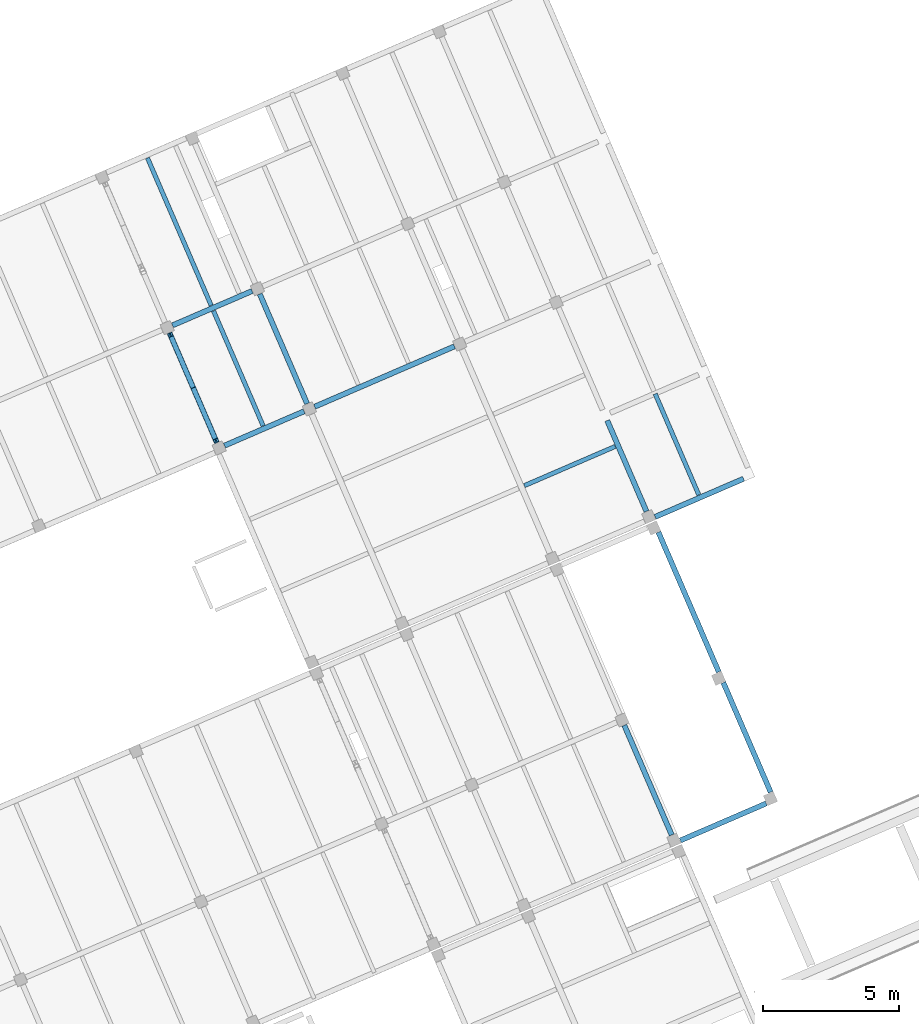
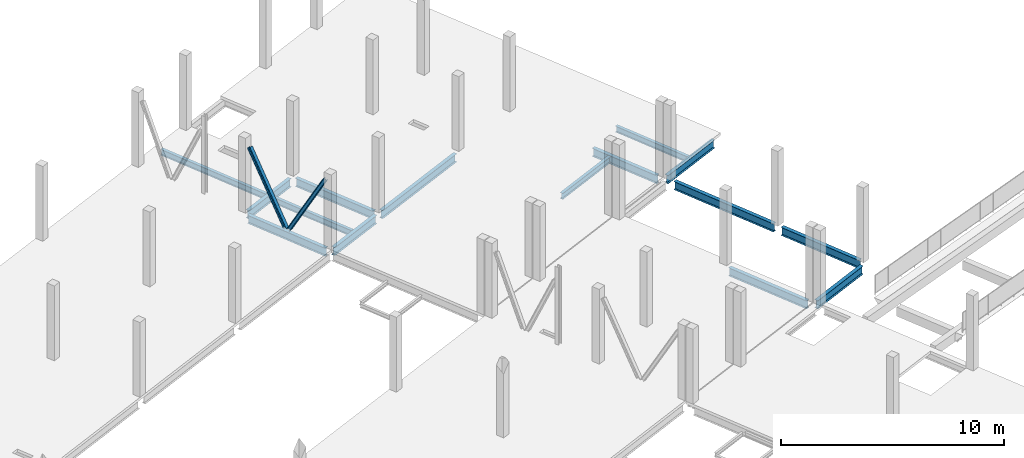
# One storey, part 19 of 24: 15 beams, 2 members.
"""IFC4 building model written with IfcOpenShell, lengths in metres."""

from ifc_helpers import new_model, entity, si_unit, converted_unit, derived_unit, direction, frame, origin, place, context, subcontext, project, spatial, line, arc, indexed_curve, outline, extrude, source, transform, mapped, material, type_object, type_shapes, element, save


model = new_model("IFC4")

# Units and contexts
model_context = context("Model", 3, precision=1e-05, world=origin(), true_north=direction((6.12323399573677e-17, 1.0)))
body_context = subcontext(model_context, "Body", "Model", "MODEL_VIEW")
ifc_project = project(units=[si_unit("LENGTHUNIT", "METRE"), si_unit("AREAUNIT", "SQUARE_METRE"), si_unit("VOLUMEUNIT", "CUBIC_METRE"), converted_unit("PLANEANGLEUNIT", "DEGREE", entity("IfcPlaneAngleMeasure", 0.0174532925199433), si_unit("PLANEANGLEUNIT", "RADIAN"), dimensions=[0, 0, 0, 0, 0, 0, 0]), si_unit("MASSUNIT", "GRAM", prefix="KILO"), derived_unit("MOMENTOFINERTIAUNIT", [(si_unit("LENGTHUNIT", "METRE"), 4)]), derived_unit("LINEARFORCEUNIT", [(si_unit("MASSUNIT", "GRAM", prefix="KILO"), 1), (si_unit("TIMEUNIT", "SECOND"), -2)]), derived_unit("WARPINGCONSTANTUNIT", [(si_unit("LENGTHUNIT", "METRE"), 6)]), derived_unit("THERMALTRANSMITTANCEUNIT", [(si_unit("MASSUNIT", "GRAM", prefix="KILO"), 1), (si_unit("THERMODYNAMICTEMPERATUREUNIT", "KELVIN"), -1), (si_unit("TIMEUNIT", "SECOND"), -3)]), derived_unit("USERDEFINED", [(si_unit("MASSUNIT", "GRAM", prefix="KILO"), 1), (si_unit("TIMEUNIT", "SECOND"), -2), (si_unit("THERMODYNAMICTEMPERATUREUNIT", "KELVIN"), -1)]), derived_unit("THERMALRESISTANCEUNIT", [(si_unit("MASSUNIT", "GRAM", prefix="KILO"), -1), (si_unit("TIMEUNIT", "SECOND"), 3), (si_unit("THERMODYNAMICTEMPERATUREUNIT", "KELVIN"), 1)])], contexts=[model_context])

# Site, building, storey
site_placement = place(None, origin())
site = spatial("IfcSite", under=ifc_project, at=site_placement, Name="Default", CompositionType="ELEMENT")
building_placement = place(site_placement, frame((12.6613425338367, -82.5732315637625, 317.15), z_axis=(0.0, 0.0, 1.0), x_axis=(-0.396377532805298, 0.918087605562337, 0.0)))
building = spatial("IfcBuilding", under=site, at=building_placement, Name="CESFAM Coyhaique", CompositionType="ELEMENT")
storey_placement = place(building_placement, frame((0.0, 0.0, 4.20000000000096)))
storey = spatial("IfcBuildingStorey", under=building, at=storey_placement, Name="Nivel 2", CompositionType="ELEMENT", Elevation=4.20000000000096)

# Beams
ifc_material = material(Name="Steel, 45-345", Category="Metal")
beam_type_1 = type_object("IfcBeamType", Name="M_W Shapes:W450X190mm", PredefinedType="BEAM", material=ifc_material)
shared_shape_1 = source(origin(), body_context, "Body", "SweptSolid", [
    extrude(outline(indexed_curve([(-0.225, -0.0950000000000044), (-0.215350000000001, -0.0950000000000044), (-0.21535, -0.0105700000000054), (-0.213109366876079, -0.00516063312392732), (-0.2077, -0.00292000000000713), (0.207699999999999, -0.00292000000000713), (0.213109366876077, -0.00516063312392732), (0.215349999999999, -0.0105700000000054), (0.215349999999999, -0.0950000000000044), (0.225, -0.0950000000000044), (0.225, 0.0949999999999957), (0.215349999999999, 0.0949999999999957), (0.215349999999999, 0.0105699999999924), (0.213109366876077, 0.00516063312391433), (0.207699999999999, 0.00291999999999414), (-0.2077, 0.00291999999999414), (-0.213109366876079, 0.00516063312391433), (-0.215350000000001, 0.0105699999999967), (-0.215350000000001, 0.0949999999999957), (-0.225, 0.0949999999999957)], segments=[line(1, 2, 3), arc(3, 4, 5), line(5, 6), arc(6, 7, 8), line(8, 9, 10, 11, 12, 13), arc(13, 14, 15), line(15, 16), arc(16, 17, 18), line(18, 19, 20, 1)], self_intersect=False)), frame((24.1815534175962, -21.197149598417, 3.82500000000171), z_axis=(1.0, 0.0, 0.0), x_axis=(0.0, 0.0, -1.0)), (0.0, 0.0, 1.0), 4.3746),
])
type_shapes(beam_type_1, [shared_shape_1])
beam_1_placement = place(storey_placement, frame((0.0, 0.0, -4.20000000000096)))
element("IfcBeam", 1, at=beam_1_placement, inside=storey, type_object=beam_type_1, Name="M_W Shapes:W450X190mm", ObjectType="M_W Shapes:W450X190mm", PredefinedType="BEAM", context=body_context, shape_type="MappedRepresentation", body=[
    mapped(shared_shape_1, transform((0.0, 0.0, 0.0), scale=1.0)),
])
beam_type_2 = type_object("IfcBeamType", Name="M_W Shapes:W450X190mm", PredefinedType="BEAM", material=ifc_material)
shared_shape_2 = source(origin(), body_context, "Body", "SweptSolid", [
    extrude(outline(indexed_curve([(-0.0950000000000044, -0.225000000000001), (0.0949999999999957, -0.225000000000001), (0.0950000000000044, -0.21535), (0.0105699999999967, -0.21535), (0.00516063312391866, -0.213109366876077), (0.0029200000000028, -0.2077), (0.00291999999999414, 0.207699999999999), (0.00516063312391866, 0.213109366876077), (0.0105699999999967, 0.21535), (0.0949999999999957, 0.21535), (0.0949999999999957, 0.224999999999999), (-0.0950000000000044, 0.224999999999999), (-0.0950000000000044, 0.21535), (-0.0105700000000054, 0.215349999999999), (-0.00516063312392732, 0.213109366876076), (-0.0029200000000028, 0.207699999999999), (-0.0029200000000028, -0.2077), (-0.00516063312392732, -0.213109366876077), (-0.0105699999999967, -0.21535), (-0.0950000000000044, -0.21535)], segments=[line(1, 2, 3, 4), arc(4, 5, 6), line(6, 7), arc(7, 8, 9), line(9, 10, 11, 12, 13, 14), arc(14, 15, 16), line(16, 17), arc(17, 18, 19), line(19, 20, 1)], self_intersect=False)), frame((43.7688534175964, -14.9844495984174, 3.82500000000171), z_axis=(0.0, 1.0, 0.0), x_axis=(-1.0, 0.0, 0.0)), (0.0, 0.0, 1.0), 3.1746),
])
type_shapes(beam_type_2, [shared_shape_2])
beam_2_placement = place(storey_placement, frame((0.0, 0.0, -4.20000000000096)))
element("IfcBeam", 2, at=beam_2_placement, inside=storey, type_object=beam_type_2, Name="M_W Shapes:W450X190mm", ObjectType="M_W Shapes:W450X190mm", PredefinedType="BEAM", context=body_context, shape_type="MappedRepresentation", body=[
    mapped(shared_shape_2, transform((0.0, 0.0, 0.0), scale=1.0)),
])
beam_type_3 = type_object("IfcBeamType", Name="M_W Shapes:W450X190mm", PredefinedType="BEAM", material=ifc_material)
shared_shape_3 = source(origin(), body_context, "Body", "SweptSolid", [
    extrude(outline(indexed_curve([(-0.0950000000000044, -0.225000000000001), (0.0949999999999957, -0.225000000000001), (0.0950000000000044, -0.21535), (0.0105699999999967, -0.21535), (0.00516063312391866, -0.213109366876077), (0.0029200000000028, -0.2077), (0.00291999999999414, 0.207699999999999), (0.00516063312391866, 0.213109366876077), (0.0105699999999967, 0.21535), (0.0949999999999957, 0.21535), (0.0949999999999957, 0.224999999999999), (-0.0950000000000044, 0.224999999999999), (-0.0950000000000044, 0.21535), (-0.0105700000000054, 0.215349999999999), (-0.00516063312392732, 0.213109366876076), (-0.0029200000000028, 0.207699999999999), (-0.0029200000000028, -0.2077), (-0.00516063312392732, -0.213109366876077), (-0.0105699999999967, -0.21535), (-0.0950000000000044, -0.21535)], segments=[line(1, 2, 3, 4), arc(4, 5, 6), line(6, 7), arc(7, 8, 9), line(9, 10, 11, 12, 13, 14), arc(14, 15, 16), line(16, 17), arc(17, 18, 19), line(19, 20, 1)], self_intersect=False)), frame((48.5688534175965, -14.9844495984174, 3.82500000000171), z_axis=(0.0, 1.0, 0.0), x_axis=(-1.0, 0.0, 0.0)), (0.0, 0.0, 1.0), 3.1746),
])
type_shapes(beam_type_3, [shared_shape_3])
beam_3_placement = place(storey_placement, frame((0.0, 0.0, -4.20000000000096)))
element("IfcBeam", 3, at=beam_3_placement, inside=storey, type_object=beam_type_3, Name="M_W Shapes:W450X190mm", ObjectType="M_W Shapes:W450X190mm", PredefinedType="BEAM", context=body_context, shape_type="MappedRepresentation", body=[
    mapped(shared_shape_3, transform((0.0, 0.0, 0.0), scale=1.0)),
])
beam_type_4 = type_object("IfcBeamType", Name="M_W Shapes:W450X190mm", PredefinedType="BEAM", material=ifc_material)
shared_shape_4 = source(origin(), body_context, "Body", "SweptSolid", [
    extrude(outline(indexed_curve([(-0.225, -0.0950000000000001), (-0.215350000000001, -0.0949999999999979), (-0.21535, -0.0105699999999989), (-0.213109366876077, -0.00516063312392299), (-0.2077, -0.00291999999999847), (0.207699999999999, -0.00291999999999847), (0.213109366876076, -0.00516063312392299), (0.215349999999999, -0.0105699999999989), (0.215349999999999, -0.0950000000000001), (0.225, -0.0950000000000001), (0.225, 0.0950000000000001), (0.215349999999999, 0.0950000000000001), (0.215349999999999, 0.0105700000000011), (0.213109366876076, 0.00516063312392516), (0.207699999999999, 0.00292000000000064), (-0.2077, 0.00292000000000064), (-0.213109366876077, 0.00516063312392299), (-0.215350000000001, 0.0105700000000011), (-0.215350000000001, 0.0950000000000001), (-0.225, 0.0950000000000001)], segments=[line(1, 2, 3), arc(3, 4, 5), line(5, 6), arc(6, 7, 8), line(8, 9, 10, 11, 12, 13), arc(13, 14, 15), line(15, 16), arc(16, 17, 18), line(18, 19, 20, 1)], self_intersect=False)), frame((43.9815534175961, -11.5971495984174, 3.82500000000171), z_axis=(1.0, 0.0, 0.0), x_axis=(0.0, 0.0, -1.0)), (0.0, 0.0, 1.0), 4.3746),
])
type_shapes(beam_type_4, [shared_shape_4])
beam_4_placement = place(storey_placement, frame((0.0, 0.0, -4.20000000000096)))
element("IfcBeam", 4, at=beam_4_placement, inside=storey, type_object=beam_type_4, Name="M_W Shapes:W450X190mm", ObjectType="M_W Shapes:W450X190mm", PredefinedType="BEAM", context=body_context, shape_type="MappedRepresentation", body=[
    mapped(shared_shape_4, transform((0.0, 0.0, 0.0), scale=1.0)),
])
beam_type_5 = type_object("IfcBeamType", Name="M_W Shapes:W450X190mm", PredefinedType="BEAM", material=ifc_material)
shared_shape_5 = source(origin(), body_context, "Body", "SweptSolid", [
    extrude(outline(indexed_curve([(-0.0949999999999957, -0.225000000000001), (0.0950000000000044, -0.225000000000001), (0.0950000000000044, -0.21535), (0.0105700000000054, -0.21535), (0.00516063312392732, -0.213109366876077), (0.00292000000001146, -0.2077), (0.0029200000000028, 0.207699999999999), (0.00516063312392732, 0.213109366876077), (0.0105700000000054, 0.21535), (0.0950000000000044, 0.21535), (0.0950000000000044, 0.224999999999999), (-0.0949999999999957, 0.224999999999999), (-0.0949999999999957, 0.21535), (-0.0105699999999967, 0.215349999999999), (-0.00516063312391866, 0.213109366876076), (-0.00291999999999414, 0.207699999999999), (-0.00291999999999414, -0.2077), (-0.00516063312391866, -0.213109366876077), (-0.0105699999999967, -0.21535), (-0.0949999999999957, -0.21535)], segments=[line(1, 2, 3, 4), arc(4, 5, 6), line(6, 7), arc(7, 8, 9), line(9, 10, 11, 12, 13, 14), arc(14, 15, 16), line(16, 17), arc(17, 18, 19), line(19, 20, 1)], self_intersect=False)), frame((43.7688534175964, -20.9844495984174, 3.82500000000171), z_axis=(0.0, 1.0, 0.0), x_axis=(-1.0, 0.0, 0.0)), (0.0, 0.0, 1.0), 5.5746),
])
type_shapes(beam_type_5, [shared_shape_5])
beam_5_placement = place(storey_placement, frame((0.0, 0.0, -4.20000000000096)))
element("IfcBeam", 5, at=beam_5_placement, inside=storey, type_object=beam_type_5, Name="M_W Shapes:W450X190mm", ObjectType="M_W Shapes:W450X190mm", PredefinedType="BEAM", context=body_context, shape_type="MappedRepresentation", body=[
    mapped(shared_shape_5, transform((0.0, 0.0, 0.0), scale=1.0)),
])
beam_type_6 = type_object("IfcBeamType", Name="M_W Shapes:W450X190mm", PredefinedType="BEAM", material=ifc_material)
shared_shape_6 = source(origin(), body_context, "Body", "SweptSolid", [
    extrude(outline(indexed_curve([(-0.225, -0.0949999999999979), (-0.215350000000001, -0.0949999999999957), (-0.21535, -0.0105699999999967), (-0.213109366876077, -0.00516063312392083), (-0.2077, -0.0029199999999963), (0.207699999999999, -0.0029199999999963), (0.213109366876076, -0.00516063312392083), (0.215349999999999, -0.0105699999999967), (0.215349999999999, -0.0949999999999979), (0.225, -0.0949999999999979), (0.225, 0.0950000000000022), (0.215349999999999, 0.0950000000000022), (0.215349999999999, 0.0105700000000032), (0.213109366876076, 0.00516063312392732), (0.207699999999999, 0.0029200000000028), (-0.2077, 0.0029200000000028), (-0.213109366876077, 0.00516063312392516), (-0.215350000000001, 0.0105700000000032), (-0.215350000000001, 0.0950000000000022), (-0.225, 0.0950000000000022)], segments=[line(1, 2, 3), arc(3, 4, 5), line(5, 6), arc(6, 7, 8), line(8, 9, 10, 11, 12, 13), arc(13, 14, 15), line(15, 16), arc(16, 17, 18), line(18, 19, 20, 1)], self_intersect=False)), frame((43.9815534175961, -15.1971495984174, 3.82500000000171), z_axis=(1.0, 0.0, 0.0), x_axis=(0.0, 0.0, -1.0)), (0.0, 0.0, 1.0), 4.3746),
])
type_shapes(beam_type_6, [shared_shape_6])
beam_6_placement = place(storey_placement, frame((0.0, 0.0, -4.20000000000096)))
element("IfcBeam", 6, at=beam_6_placement, inside=storey, type_object=beam_type_6, Name="M_W Shapes:W450X190mm", ObjectType="M_W Shapes:W450X190mm", PredefinedType="BEAM", context=body_context, shape_type="MappedRepresentation", body=[
    mapped(shared_shape_6, transform((0.0, 0.0, 0.0), scale=1.0)),
])
beam_type_7 = type_object("IfcBeamType", Name="M_W Shapes:W450X190mm", PredefinedType="BEAM", material=ifc_material)
shared_shape_7 = source(origin(), body_context, "Body", "SweptSolid", [
    extrude(outline(indexed_curve([(-0.0950000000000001, -0.225000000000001), (0.0950000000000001, -0.225000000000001), (0.0950000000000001, -0.21535), (0.0105699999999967, -0.21535), (0.00516063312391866, -0.213109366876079), (0.00291999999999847, -0.2077), (0.00291999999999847, 0.207699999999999), (0.00516063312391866, 0.213109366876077), (0.0105700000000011, 0.21535), (0.0950000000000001, 0.21535), (0.0950000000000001, 0.224999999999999), (-0.0950000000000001, 0.224999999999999), (-0.0950000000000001, 0.21535), (-0.0105700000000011, 0.215349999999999), (-0.00516063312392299, 0.213109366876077), (-0.0029200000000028, 0.207699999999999), (-0.0029200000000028, -0.2077), (-0.00516063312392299, -0.213109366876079), (-0.0105700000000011, -0.21535), (-0.0950000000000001, -0.21535)], segments=[line(1, 2, 3, 4), arc(4, 5, 6), line(6, 7), arc(7, 8, 9), line(9, 10, 11, 12, 13, 14), arc(14, 15, 16), line(16, 17), arc(17, 18, 19), line(19, 20, 1)], self_intersect=False)), frame((23.8688534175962, -24.8344495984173, 3.82500000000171), z_axis=(0.0, 1.0, 0.0), x_axis=(-1.0, 0.0, 0.0)), (0.0, 0.0, 1.0), 3.4246),
])
type_shapes(beam_type_7, [shared_shape_7])
beam_7_placement = place(storey_placement, frame((0.0, 0.0, -4.20000000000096)))
element("IfcBeam", 7, at=beam_7_placement, inside=storey, type_object=beam_type_7, Name="M_W Shapes:W450X190mm", ObjectType="M_W Shapes:W450X190mm", PredefinedType="BEAM", context=body_context, shape_type="MappedRepresentation", body=[
    mapped(shared_shape_7, transform((0.0, 0.0, 0.0), scale=1.0)),
])
beam_type_8 = type_object("IfcBeamType", Name="M_W Shapes:W450X190mm", PredefinedType="BEAM", material=ifc_material)
shared_shape_8 = source(origin(), body_context, "Body", "SweptSolid", [
    extrude(outline(indexed_curve([(-0.225, -0.0949999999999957), (-0.215350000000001, -0.0949999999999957), (-0.21535, -0.0105699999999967), (-0.213109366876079, -0.00516063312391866), (-0.2077, -0.00291999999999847), (0.207699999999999, -0.00291999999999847), (0.213109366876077, -0.00516063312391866), (0.215349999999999, -0.0105699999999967), (0.215349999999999, -0.0949999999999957), (0.225, -0.0949999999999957), (0.225, 0.0950000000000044), (0.215349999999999, 0.0950000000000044), (0.215349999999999, 0.0105700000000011), (0.213109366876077, 0.00516063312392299), (0.207699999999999, 0.0029200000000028), (-0.2077, 0.0029200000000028), (-0.213109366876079, 0.00516063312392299), (-0.215350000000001, 0.0105700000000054), (-0.215350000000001, 0.0950000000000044), (-0.225, 0.0950000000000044)], segments=[line(1, 2, 3), arc(3, 4, 5), line(5, 6), arc(6, 7, 8), line(8, 9, 10, 11, 12, 13), arc(13, 14, 15), line(15, 16), arc(16, 17, 18), line(18, 19, 20, 1)], self_intersect=False)), frame((24.1815534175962, -25.1471495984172, 3.82500000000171), z_axis=(1.0, 0.0, 0.0), x_axis=(0.0, 0.0, -1.0)), (0.0, 0.0, 1.0), 4.3746),
])
type_shapes(beam_type_8, [shared_shape_8])
beam_8_placement = place(storey_placement, frame((0.0, 0.0, -4.20000000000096)))
element("IfcBeam", 8, at=beam_8_placement, inside=storey, type_object=beam_type_8, Name="M_W Shapes:W450X190mm", ObjectType="M_W Shapes:W450X190mm", PredefinedType="BEAM", context=body_context, shape_type="MappedRepresentation", body=[
    mapped(shared_shape_8, transform((0.0, 0.0, 0.0), scale=1.0)),
])
beam_type_9 = type_object("IfcBeamType", Name="M_W Shapes:W450X190mm", PredefinedType="BEAM", material=ifc_material)
shared_shape_9 = source(origin(), body_context, "Body", "SweptSolid", [
    extrude(outline(indexed_curve([(-0.225, -0.0949999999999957), (-0.215350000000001, -0.0949999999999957), (-0.21535, -0.0105699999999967), (-0.213109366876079, -0.00516063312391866), (-0.2077, -0.00291999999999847), (0.207699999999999, -0.00291999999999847), (0.213109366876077, -0.00516063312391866), (0.215349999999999, -0.0105699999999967), (0.215349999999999, -0.0949999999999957), (0.225, -0.0949999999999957), (0.225, 0.0950000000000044), (0.215349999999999, 0.0950000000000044), (0.215349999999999, 0.0105700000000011), (0.213109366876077, 0.00516063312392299), (0.207699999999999, 0.0029200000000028), (-0.2077, 0.0029200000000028), (-0.213109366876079, 0.00516063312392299), (-0.215350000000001, 0.0105700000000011), (-0.215350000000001, 0.0950000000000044), (-0.225, 0.0950000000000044)], segments=[line(1, 2, 3), arc(3, 4, 5), line(5, 6), arc(6, 7, 8), line(8, 9, 10, 11, 12, 13), arc(13, 14, 15), line(15, 16), arc(16, 17, 18), line(18, 19, 20, 1)], self_intersect=False)), frame((28.9815534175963, -25.1471495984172, 3.82500000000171), z_axis=(1.0, 0.0, 0.0), x_axis=(0.0, 0.0, -1.0)), (0.0, 0.0, 1.0), 5.5746),
])
type_shapes(beam_type_9, [shared_shape_9])
beam_9_placement = place(storey_placement, frame((0.0, 0.0, -4.20000000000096)))
element("IfcBeam", 9, at=beam_9_placement, inside=storey, type_object=beam_type_9, Name="M_W Shapes:W450X190mm", ObjectType="M_W Shapes:W450X190mm", PredefinedType="BEAM", context=body_context, shape_type="MappedRepresentation", body=[
    mapped(shared_shape_9, transform((0.0, 0.0, 0.0), scale=1.0)),
])
beam_type_10 = type_object("IfcBeamType", Name="M_W Shapes:W450X190mm", PredefinedType="BEAM", material=ifc_material)
shared_shape_10 = source(origin(), body_context, "Body", "SweptSolid", [
    extrude(outline(indexed_curve([(-0.225, -0.0950000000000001), (-0.215350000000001, -0.0950000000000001), (-0.21535, -0.0105700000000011), (-0.213109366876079, -0.00516063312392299), (-0.2077, -0.0029200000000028), (0.207699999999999, -0.0029200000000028), (0.213109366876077, -0.00516063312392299), (0.215349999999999, -0.0105700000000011), (0.215349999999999, -0.0950000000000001), (0.225, -0.0950000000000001), (0.225, 0.0950000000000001), (0.215349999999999, 0.0950000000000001), (0.215349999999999, 0.0105699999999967), (0.213109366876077, 0.00516063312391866), (0.207699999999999, 0.00291999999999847), (-0.2077, 0.00291999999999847), (-0.213109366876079, 0.00516063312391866), (-0.215350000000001, 0.0105700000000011), (-0.215350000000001, 0.0950000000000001), (-0.225, 0.0950000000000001)], segments=[line(1, 2, 3), arc(3, 4, 5), line(5, 6), arc(6, 7, 8), line(8, 9, 10, 11, 12, 13), arc(13, 14, 15), line(15, 16), arc(16, 17, 18), line(18, 19, 20, 1)], self_intersect=False)), frame((35.4315534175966, -25.0471495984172, 3.82500000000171), z_axis=(1.0, 0.0, 0.0), x_axis=(0.0, 0.0, -1.0)), (0.0, 0.0, 1.0), 3.6246),
])
type_shapes(beam_type_10, [shared_shape_10])
beam_10_placement = place(storey_placement, frame((0.0, 0.0, -4.20000000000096)))
element("IfcBeam", 10, at=beam_10_placement, inside=storey, type_object=beam_type_10, Name="M_W Shapes:W450X190mm", ObjectType="M_W Shapes:W450X190mm", PredefinedType="BEAM", context=body_context, shape_type="MappedRepresentation", body=[
    mapped(shared_shape_10, transform((0.0, 0.0, 0.0), scale=1.0)),
])
beam_type_11 = type_object("IfcBeamType", Name="M_W Shapes:W450X190mm", PredefinedType="BEAM", material=ifc_material)
shared_shape_11 = source(origin(), body_context, "Body", "SweptSolid", [
    extrude(outline(indexed_curve([(-0.0950000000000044, -0.225000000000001), (0.0949999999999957, -0.225000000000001), (0.0949999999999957, -0.21535), (0.0105699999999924, -0.21535), (0.00516063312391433, -0.213109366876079), (0.00291999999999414, -0.2077), (0.00291999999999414, 0.207699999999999), (0.00516063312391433, 0.213109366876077), (0.0105699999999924, 0.21535), (0.0949999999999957, 0.21535), (0.0949999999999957, 0.224999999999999), (-0.0950000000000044, 0.224999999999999), (-0.0950000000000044, 0.21535), (-0.0105700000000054, 0.215349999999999), (-0.00516063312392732, 0.213109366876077), (-0.00292000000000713, 0.207699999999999), (-0.00292000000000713, -0.2077), (-0.00516063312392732, -0.213109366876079), (-0.0105700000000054, -0.21535), (-0.0950000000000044, -0.21535)], segments=[line(1, 2, 3, 4), arc(4, 5, 6), line(6, 7), arc(7, 8, 9), line(9, 10, 11, 12, 13, 14), arc(14, 15, 16), line(16, 17), arc(17, 18, 19), line(19, 20, 1)], self_intersect=False)), frame((35.1188534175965, -28.7844495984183, 3.82500000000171), z_axis=(0.0, 1.0, 0.0), x_axis=(-1.0, 0.0, 0.0)), (0.0, 0.0, 1.0), 3.5246),
])
type_shapes(beam_type_11, [shared_shape_11])
beam_11_placement = place(storey_placement, frame((0.0, 0.0, -4.20000000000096)))
element("IfcBeam", 11, at=beam_11_placement, inside=storey, type_object=beam_type_11, Name="M_W Shapes:W450X190mm", ObjectType="M_W Shapes:W450X190mm", PredefinedType="BEAM", context=body_context, shape_type="MappedRepresentation", body=[
    mapped(shared_shape_11, transform((0.0, 0.0, 0.0), scale=1.0)),
])

# Members
member_type_1 = type_object("IfcMemberType", Name="M_Double C-Channel:doble T HEB 180", PredefinedType="BRACE", material=ifc_material)
shared_shape_12 = source(origin(), body_context, "Body", "SweptSolid", [
    extrude(outline(indexed_curve([(-0.045425, -0.0899999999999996), (0.0445749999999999, -0.0899999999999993), (0.0397422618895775, -0.0783327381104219), (0.0280749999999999, -0.0735000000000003), (-0.0272249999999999, -0.0647413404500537), (-0.0272249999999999, 0.0647413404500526), (0.0280750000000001, 0.0734999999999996), (0.0397422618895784, 0.078332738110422), (0.044575, 0.0900000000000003), (-0.045425, 0.0900000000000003)], segments=[line(1, 2), arc(2, 3, 4), line(4, 5, 6, 7), arc(7, 8, 9), line(9, 10, 1)], self_intersect=False)), frame((-2.4277149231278, -0.0454249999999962, 0.0), z_axis=(1.0, 0.0, 0.0), x_axis=(0.0, -1.0, 0.0)), (0.0, 0.0, 1.0), 4.1299440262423),
    extrude(outline(indexed_curve([(-0.0899999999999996, -0.045425), (0.0900000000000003, -0.045425), (0.0900000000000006, 0.044575), (0.0783327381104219, 0.0397422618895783), (0.0734999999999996, 0.028075), (0.0647413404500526, -0.0272249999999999), (-0.0647413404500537, -0.0272249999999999), (-0.0735000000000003, 0.0280749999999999), (-0.0783327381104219, 0.0397422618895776), (-0.0899999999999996, 0.0445749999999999)], segments=[line(1, 2, 3), arc(3, 4, 5), line(5, 6, 7, 8), arc(8, 9, 10), line(10, 1)], self_intersect=False)), frame((-2.4277149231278, 0.0454250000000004, 0.0), z_axis=(1.0, 0.0, 0.0), x_axis=(0.0, 0.0, -1.0)), (0.0, 0.0, 1.0), 4.1299440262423),
])
type_shapes(member_type_1, [shared_shape_12])
member_1_placement = place(storey_placement, frame((44.8904855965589, -11.5971495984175, 2.0807452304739), z_axis=(0.87075356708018, 0.0, 0.491719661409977), x_axis=(-0.491719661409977, 0.0, 0.87075356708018)))
element("IfcMember", 12, at=member_1_placement, inside=storey, type_object=member_type_1, Name="M_Double C-Channel:doble T HEB 180", ObjectType="M_Double C-Channel:doble T HEB 180", PredefinedType="BRACE", context=body_context, shape_type="MappedRepresentation", body=[
    mapped(shared_shape_12, transform((0.0, 0.0, 0.0), scale=1.0)),
])
member_type_2 = type_object("IfcMemberType", Name="M_Double C-Channel:doble T HEB 180", PredefinedType="BRACE", material=ifc_material)
shared_shape_13 = source(origin(), body_context, "Body", "SweptSolid", [
    extrude(outline(indexed_curve([(-0.0899999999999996, -0.045425), (0.0900000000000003, -0.045425), (0.0900000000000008, 0.044575), (0.078332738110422, 0.0397422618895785), (0.0734999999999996, 0.028075), (0.0647413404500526, -0.0272249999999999), (-0.0647413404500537, -0.0272249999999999), (-0.0735000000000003, 0.0280749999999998), (-0.0783327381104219, 0.0397422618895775), (-0.0899999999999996, 0.0445749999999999)], segments=[line(1, 2, 3), arc(3, 4, 5), line(5, 6, 7, 8), arc(8, 9, 10), line(10, 1)], self_intersect=False)), frame((-2.42771492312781, 0.0454249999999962, 0.0), z_axis=(1.0, 0.0, 0.0), x_axis=(0.0, 0.0, -1.0)), (0.0, 0.0, 1.0), 4.1299440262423),
    extrude(outline(indexed_curve([(-0.045425, -0.0899999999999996), (0.0445749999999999, -0.0899999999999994), (0.0397422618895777, -0.078332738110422), (0.0280749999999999, -0.0735000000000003), (-0.0272249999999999, -0.0647413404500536), (-0.0272249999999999, 0.0647413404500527), (0.0280749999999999, 0.0734999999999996), (0.0397422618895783, 0.0783327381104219), (0.044575, 0.0900000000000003), (-0.045425, 0.0900000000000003)], segments=[line(1, 2), arc(2, 3, 4), line(4, 5, 6, 7), arc(7, 8, 9), line(9, 10, 1)], self_intersect=False)), frame((-2.42771492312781, -0.0454250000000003, 0.0), z_axis=(1.0, 0.0, 0.0), x_axis=(0.0, -1.0, 0.0)), (0.0, 0.0, 1.0), 4.1299440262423),
])
type_shapes(member_type_2, [shared_shape_13])
member_2_placement = place(storey_placement, frame((47.4472212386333, -11.5971495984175, 2.0807452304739), z_axis=(-0.870753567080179, 0.0, 0.491719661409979), x_axis=(0.491719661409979, 0.0, 0.870753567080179)))
element("IfcMember", 13, at=member_2_placement, inside=storey, type_object=member_type_2, Name="M_Double C-Channel:doble T HEB 180", ObjectType="M_Double C-Channel:doble T HEB 180", PredefinedType="BRACE", context=body_context, shape_type="MappedRepresentation", body=[
    mapped(shared_shape_13, transform((0.0, 0.0, 0.0), scale=1.0)),
])

# Beams
beam_type_12 = type_object("IfcBeamType", Name="M_W Shapes:W330X160mm", PredefinedType="BEAM", material=ifc_material)
shared_shape_14 = source(origin(), body_context, "Body", "SweptSolid", [
    extrude(outline(indexed_curve([(-0.164999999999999, -0.0799999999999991), (-0.15535, -0.0799999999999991), (-0.155349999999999, -0.0105699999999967), (-0.153109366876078, -0.00516063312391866), (-0.1477, -0.00291999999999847), (0.1477, -0.00291999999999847), (0.153109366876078, -0.00516063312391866), (0.15535, -0.0105699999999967), (0.15535, -0.0799999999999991), (0.165, -0.0799999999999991), (0.165, 0.0800000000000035), (0.15535, 0.0800000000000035), (0.155349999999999, 0.0105700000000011), (0.153109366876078, 0.00516063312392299), (0.1477, 0.0029200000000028), (-0.1477, 0.0029200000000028), (-0.153109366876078, 0.00516063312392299), (-0.15535, 0.0105700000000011), (-0.15535, 0.0800000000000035), (-0.164999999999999, 0.0800000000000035)], segments=[line(1, 2, 3), arc(3, 4, 5), line(5, 6), arc(6, 7, 8), line(8, 9, 10, 11, 12, 13), arc(13, 14, 15), line(15, 16), arc(16, 17, 18), line(18, 19, 20, 1)], self_intersect=False)), frame((35.2265534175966, -27.0471495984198, 3.88500000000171), z_axis=(1.0, 0.0, 0.0), x_axis=(0.0, 0.0, -1.0)), (0.0, 0.0, 1.0), 4.0295),
])
type_shapes(beam_type_12, [shared_shape_14])
beam_12_placement = place(storey_placement, frame((0.0, 0.0, -4.20000000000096)))
element("IfcBeam", 14, at=beam_12_placement, inside=storey, type_object=beam_type_12, Name="M_W Shapes:W330X160mm", ObjectType="M_W Shapes:W330X160mm", PredefinedType="BEAM", context=body_context, shape_type="MappedRepresentation", body=[
    mapped(shared_shape_14, transform((0.0, 0.0, 0.0), scale=1.0)),
])
beam_type_13 = type_object("IfcBeamType", Name="M_W Shapes:W330X160mm", PredefinedType="BEAM", material=ifc_material)
shared_shape_15 = source(origin(), body_context, "Body", "SweptSolid", [
    extrude(outline(indexed_curve([(-0.0800000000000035, -0.165), (0.0799999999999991, -0.165), (0.0799999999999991, -0.15535), (0.0105699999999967, -0.155349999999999), (0.00516063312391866, -0.153109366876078), (0.00291999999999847, -0.1477), (0.00291999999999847, 0.1477), (0.00516063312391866, 0.153109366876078), (0.0105699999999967, 0.15535), (0.0799999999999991, 0.15535), (0.0799999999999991, 0.164999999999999), (-0.0800000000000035, 0.164999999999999), (-0.0800000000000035, 0.15535), (-0.0105700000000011, 0.155349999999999), (-0.00516063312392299, 0.153109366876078), (-0.0029200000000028, 0.1477), (-0.0029200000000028, -0.1477), (-0.00516063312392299, -0.153109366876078), (-0.0105700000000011, -0.15535), (-0.0800000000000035, -0.15535)], segments=[line(1, 2, 3, 4), arc(4, 5, 6), line(6, 7), arc(7, 8, 9), line(9, 10, 11, 12, 13, 14), arc(14, 15, 16), line(16, 17), arc(17, 18, 19), line(19, 20, 1)], self_intersect=False)), frame((38.0687775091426, -24.9394495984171, 3.88500000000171), z_axis=(0.0, 1.0, 0.0), x_axis=(-1.0, 0.0, 0.0)), (0.0, 0.0, 1.0), 3.6246),
])
type_shapes(beam_type_13, [shared_shape_15])
beam_13_placement = place(storey_placement, frame((0.0, 0.0, -4.20000000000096)))
element("IfcBeam", 15, at=beam_13_placement, inside=storey, type_object=beam_type_13, Name="M_W Shapes:W330X160mm", ObjectType="M_W Shapes:W330X160mm", PredefinedType="BEAM", context=body_context, shape_type="MappedRepresentation", body=[
    mapped(shared_shape_15, transform((0.0, 0.0, 0.0), scale=1.0)),
])
beam_type_14 = type_object("IfcBeamType", Name="M_W Shapes:W330X160mm", PredefinedType="BEAM", material=ifc_material)
shared_shape_16 = source(origin(), body_context, "Body", "SweptSolid", [
    extrude(outline(indexed_curve([(-0.164999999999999, -0.0799999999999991), (-0.15535, -0.0799999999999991), (-0.15535, -0.0105699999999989), (-0.153109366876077, -0.00516063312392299), (-0.1477, -0.00291999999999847), (0.1477, -0.00291999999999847), (0.153109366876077, -0.00516063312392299), (0.15535, -0.0105699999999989), (0.15535, -0.0799999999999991), (0.165, -0.0799999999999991), (0.165, 0.0800000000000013), (0.15535, 0.0800000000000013), (0.15535, 0.0105700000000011), (0.153109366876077, 0.00516063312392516), (0.1477, 0.00292000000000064), (-0.1477, 0.00292000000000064), (-0.153109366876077, 0.00516063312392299), (-0.15535, 0.0105700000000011), (-0.15535, 0.0800000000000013), (-0.164999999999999, 0.0800000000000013)], segments=[line(1, 2, 3), arc(3, 4, 5), line(5, 6), arc(6, 7, 8), line(8, 9, 10, 11, 12, 13), arc(13, 14, 15), line(15, 16), arc(16, 17, 18), line(18, 19, 20, 1)], self_intersect=False)), frame((48.6765534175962, -13.3971495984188, 3.88500000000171), z_axis=(1.0, 0.0, 0.0), x_axis=(0.0, 0.0, -1.0)), (0.0, 0.0, 1.0), 5.88460000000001),
])
type_shapes(beam_type_14, [shared_shape_16])
beam_14_placement = place(storey_placement, frame((0.0, 0.0, -4.20000000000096)))
element("IfcBeam", 16, at=beam_14_placement, inside=storey, type_object=beam_type_14, Name="M_W Shapes:W330X160mm", ObjectType="M_W Shapes:W330X160mm", PredefinedType="BEAM", context=body_context, shape_type="MappedRepresentation", body=[
    mapped(shared_shape_16, transform((0.0, 0.0, 0.0), scale=1.0)),
])
beam_type_15 = type_object("IfcBeamType", Name="M_W Shapes:W330X160mm", PredefinedType="BEAM", material=ifc_material)
shared_shape_17 = source(origin(), body_context, "Body", "SweptSolid", [
    extrude(outline(indexed_curve([(-0.164999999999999, -0.0799999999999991), (-0.15535, -0.0799999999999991), (-0.15535, -0.0105699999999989), (-0.153109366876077, -0.00516063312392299), (-0.1477, -0.00291999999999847), (0.1477, -0.00291999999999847), (0.153109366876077, -0.00516063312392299), (0.15535, -0.0105700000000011), (0.15535, -0.0799999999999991), (0.165, -0.0799999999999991), (0.165000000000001, 0.0800000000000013), (0.15535, 0.0799999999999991), (0.15535, 0.0105700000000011), (0.153109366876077, 0.00516063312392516), (0.1477, 0.00292000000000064), (-0.1477, 0.00292000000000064), (-0.153109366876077, 0.00516063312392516), (-0.15535, 0.0105700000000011), (-0.15535, 0.0800000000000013), (-0.164999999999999, 0.0799999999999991)], segments=[line(1, 2, 3), arc(3, 4, 5), line(5, 6), arc(6, 7, 8), line(8, 9, 10, 11, 12, 13), arc(13, 14, 15), line(15, 16), arc(16, 17, 18), line(18, 19, 20, 1)], self_intersect=False)), frame((43.8765534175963, -13.3971495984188, 3.88500000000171), z_axis=(1.0, 0.0, 0.0), x_axis=(0.0, 0.0, -1.0)), (0.0, 0.0, 1.0), 4.5846),
])
type_shapes(beam_type_15, [shared_shape_17])
beam_15_placement = place(storey_placement, frame((0.0, 0.0, -4.20000000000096)))
element("IfcBeam", 17, at=beam_15_placement, inside=storey, type_object=beam_type_15, Name="M_W Shapes:W330X160mm", ObjectType="M_W Shapes:W330X160mm", PredefinedType="BEAM", context=body_context, shape_type="MappedRepresentation", body=[
    mapped(shared_shape_17, transform((0.0, 0.0, 0.0), scale=1.0)),
])

save(model, "model.ifc")
